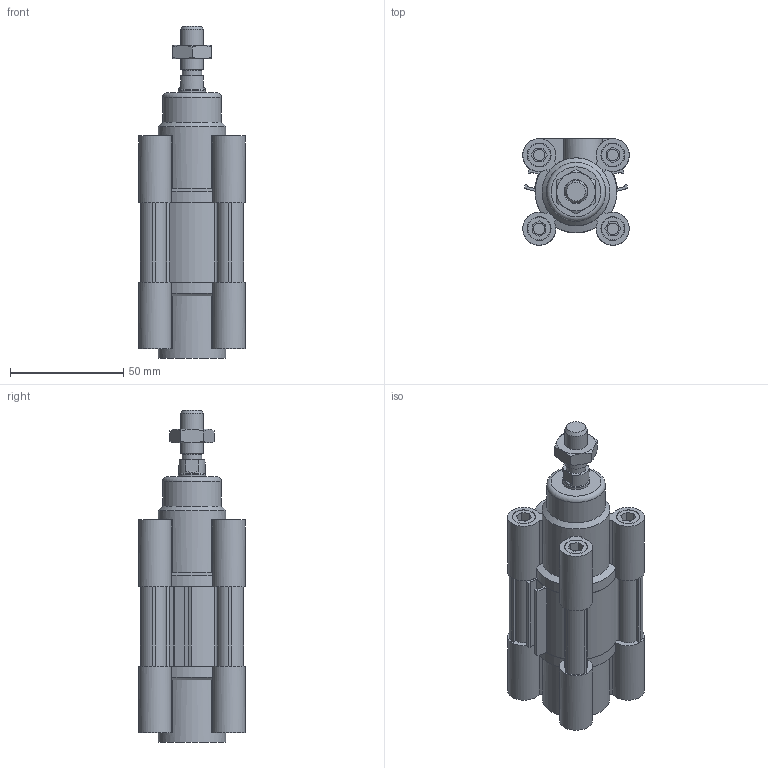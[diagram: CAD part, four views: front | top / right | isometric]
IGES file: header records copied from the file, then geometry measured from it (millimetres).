
Global section: file name: No Iges File Name specified; native system: Autodesk Inventor 2012; preprocessor: AutoDesk Inventor Iges Exporter R2012; author: pilonfr1; date: 20120128.094953; units: millimetre
Bounding box: 47 x 47 x 146.5 mm (x, y, z)
Volume: 152109.4 mm3; surface area: 54884.3 mm2
Topology: 5 solids, 5 shells, 316 faces, 788 edges, 522 vertices
Faces by surface type: plane 200, cylinder 54, revolution 39, cone 22, torus 1
Full cylindrical faces by diameter (mm): 8.8 x1, 10 x9, 11.5 x1, 12 x1, 26 x1, 30 x2, 32 x3
